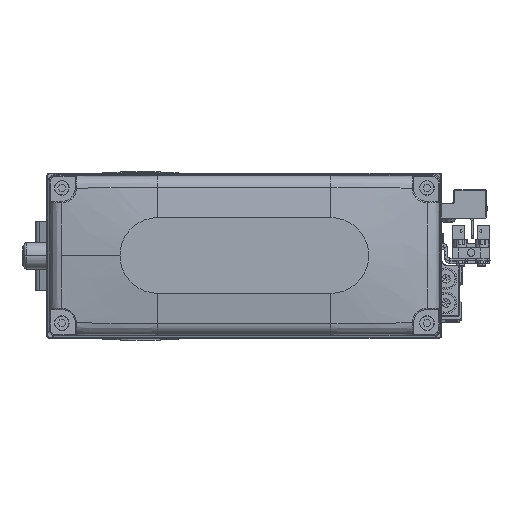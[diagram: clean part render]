
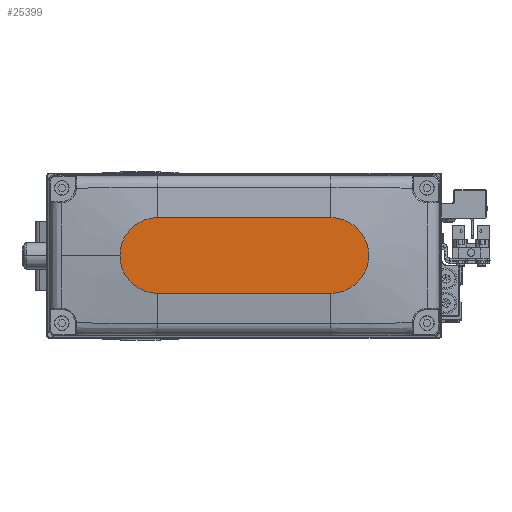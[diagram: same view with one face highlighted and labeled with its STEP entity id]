
A CAD part, top view. The second image highlights one B-rep face of the part: STEP entity #25399.
In plain terms, the highlighted planar face has unit normal (0, 0, 1).
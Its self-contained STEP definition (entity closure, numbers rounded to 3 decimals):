
#1746 = EDGE_CURVE ( 'NONE', #27190, #18042, #4315, .T. ) ;
#2329 = EDGE_CURVE ( 'NONE', #15646, #13520, #35686, .T. ) ;
#2796 = AXIS2_PLACEMENT_3D ( 'NONE', #3230, #17472, #31720 ) ;
#3230 = CARTESIAN_POINT ( 'NONE',  ( 32., 0., 35. ) ) ;
#4315 = CIRCLE ( 'NONE', #36388, 14. ) ;
#4735 = DIRECTION ( 'NONE',  ( 1., 0., 0. ) ) ;
#4904 = CARTESIAN_POINT ( 'NONE',  ( -32., 14., 35. ) ) ;
#6286 = EDGE_CURVE ( 'NONE', #11320, #15646, #12058, .T. ) ;
#6621 = CARTESIAN_POINT ( 'NONE',  ( -32., 0., 35. ) ) ;
#6803 = DIRECTION ( 'NONE',  ( 0., 0., 1. ) ) ;
#6969 = ORIENTED_EDGE ( 'NONE', *, *, #14694, .T. ) ;
#7224 = AXIS2_PLACEMENT_3D ( 'NONE', #38764, #6803, #21031 ) ;
#9084 = VECTOR ( 'NONE', #43174, 1000. ) ;
#9392 = ORIENTED_EDGE ( 'NONE', *, *, #1746, .T. ) ;
#10288 = FACE_OUTER_BOUND ( 'NONE', #26939, .T. ) ;
#10327 = CARTESIAN_POINT ( 'NONE',  ( 32., 14., 35. ) ) ;
#10643 = CARTESIAN_POINT ( 'NONE',  ( -32., -14., 35. ) ) ;
#11320 = VERTEX_POINT ( 'NONE', #10327 ) ;
#12058 = LINE ( 'NONE', #26282, #14218 ) ;
#13520 = VERTEX_POINT ( 'NONE', #10643 ) ;
#13805 = ORIENTED_EDGE ( 'NONE', *, *, #18839, .T. ) ;
#14218 = VECTOR ( 'NONE', #40506, 1000. ) ;
#14694 = EDGE_CURVE ( 'NONE', #18042, #11320, #22929, .T. ) ;
#14697 = LINE ( 'NONE', #28944, #9084 ) ;
#15566 = AXIS2_PLACEMENT_3D ( 'NONE', #6621, #20850, #35099 ) ;
#15646 = VERTEX_POINT ( 'NONE', #4904 ) ;
#17472 = DIRECTION ( 'NONE',  ( 0., 0., 1. ) ) ;
#18042 = VERTEX_POINT ( 'NONE', #39985 ) ;
#18839 = EDGE_CURVE ( 'NONE', #13520, #27190, #14697, .T. ) ;
#20850 = DIRECTION ( 'NONE',  ( 0., 0., 1. ) ) ;
#21031 = DIRECTION ( 'NONE',  ( 1., 0., 0. ) ) ;
#22482 = CARTESIAN_POINT ( 'NONE',  ( 32., 0., 35. ) ) ;
#22558 = ORIENTED_EDGE ( 'NONE', *, *, #6286, .T. ) ;
#22929 = CIRCLE ( 'NONE', #2796, 14. ) ;
#24525 = PLANE ( 'NONE',  #7224 ) ;
#25399 = ADVANCED_FACE ( 'NONE', ( #10288 ), #24525, .T. ) ;
#26282 = CARTESIAN_POINT ( 'NONE',  ( -32., 14., 35. ) ) ;
#26939 = EDGE_LOOP ( 'NONE', ( #22558, #39119, #13805, #9392, #6969 ) ) ;
#27190 = VERTEX_POINT ( 'NONE', #29846 ) ;
#28944 = CARTESIAN_POINT ( 'NONE',  ( -32., -14., 35. ) ) ;
#29846 = CARTESIAN_POINT ( 'NONE',  ( 32., -14., 35. ) ) ;
#31720 = DIRECTION ( 'NONE',  ( 1., 0., 0. ) ) ;
#35099 = DIRECTION ( 'NONE',  ( 1., 0., 0. ) ) ;
#35686 = CIRCLE ( 'NONE', #15566, 14. ) ;
#36388 = AXIS2_PLACEMENT_3D ( 'NONE', #22482, #36724, #4735 ) ;
#36724 = DIRECTION ( 'NONE',  ( 0., 0., 1. ) ) ;
#38764 = CARTESIAN_POINT ( 'NONE',  ( 0., 0., 35. ) ) ;
#39119 = ORIENTED_EDGE ( 'NONE', *, *, #2329, .T. ) ;
#39985 = CARTESIAN_POINT ( 'NONE',  ( 46., 0., 35. ) ) ;
#40506 = DIRECTION ( 'NONE',  ( -1., 0., 0. ) ) ;
#43174 = DIRECTION ( 'NONE',  ( 1., 0., 0. ) ) ;
